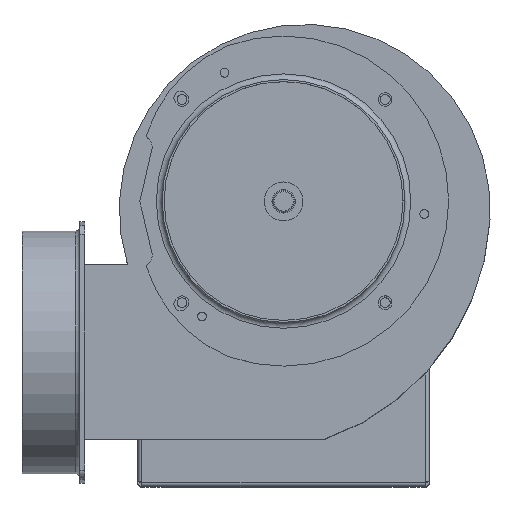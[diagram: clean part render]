
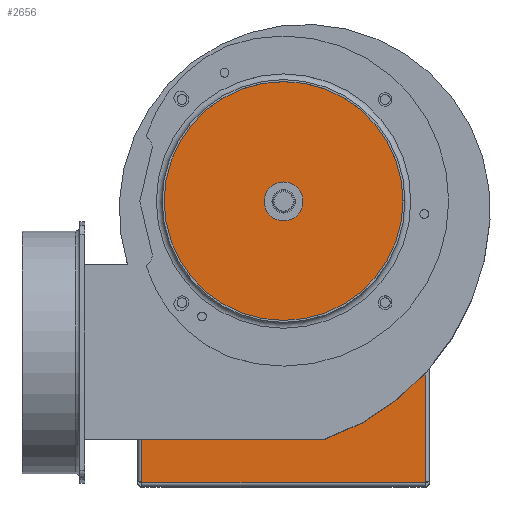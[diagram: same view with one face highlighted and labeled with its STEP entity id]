
A CAD part, top view. The second image highlights one B-rep face of the part: STEP entity #2656.
In plain terms, the highlighted planar face has unit normal (0, 0, 1) as drawn and (0, 0, -1) by its records, which use the part's own axes.
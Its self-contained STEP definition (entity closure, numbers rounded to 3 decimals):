
#80=PLANE('',#2942);
#152=LINE('',#4190,#332);
#159=LINE('',#4210,#339);
#165=LINE('',#4225,#345);
#173=LINE('',#4253,#353);
#178=LINE('',#4290,#358);
#179=LINE('',#4291,#359);
#180=LINE('',#4292,#360);
#332=VECTOR('',#3367,1000.);
#339=VECTOR('',#3380,1000.);
#345=VECTOR('',#3390,1000.);
#353=VECTOR('',#3418,1000.);
#358=VECTOR('',#3457,1000.);
#359=VECTOR('',#3458,1000.);
#360=VECTOR('',#3459,1000.);
#683=ORIENTED_EDGE('',*,*,#1323,.T.);
#684=ORIENTED_EDGE('',*,*,#1321,.T.);
#685=ORIENTED_EDGE('',*,*,#1319,.T.);
#686=ORIENTED_EDGE('',*,*,#1317,.T.);
#687=ORIENTED_EDGE('',*,*,#1315,.T.);
#688=ORIENTED_EDGE('',*,*,#1295,.F.);
#689=ORIENTED_EDGE('',*,*,#1325,.T.);
#690=ORIENTED_EDGE('',*,*,#1288,.F.);
#691=ORIENTED_EDGE('',*,*,#1326,.T.);
#692=ORIENTED_EDGE('',*,*,#1279,.F.);
#693=ORIENTED_EDGE('',*,*,#1327,.T.);
#694=ORIENTED_EDGE('',*,*,#1309,.F.);
#695=ORIENTED_EDGE('',*,*,#1307,.F.);
#696=ORIENTED_EDGE('',*,*,#1304,.F.);
#697=ORIENTED_EDGE('',*,*,#1301,.F.);
#1279=EDGE_CURVE('',#1624,#1625,#152,.T.);
#1288=EDGE_CURVE('',#1633,#1634,#159,.T.);
#1295=EDGE_CURVE('',#1640,#1641,#165,.T.);
#1301=EDGE_CURVE('',#1641,#1646,#1876,.T.);
#1304=EDGE_CURVE('',#1646,#1648,#1878,.T.);
#1307=EDGE_CURVE('',#1648,#1650,#1880,.T.);
#1309=EDGE_CURVE('',#1650,#1651,#173,.T.);
#1315=EDGE_CURVE('',#1656,#1656,#1882,.T.);
#1317=EDGE_CURVE('',#1658,#1658,#1884,.T.);
#1319=EDGE_CURVE('',#1660,#1660,#1886,.T.);
#1321=EDGE_CURVE('',#1662,#1662,#1888,.T.);
#1323=EDGE_CURVE('',#1664,#1664,#1890,.T.);
#1325=EDGE_CURVE('',#1640,#1634,#178,.F.);
#1326=EDGE_CURVE('',#1633,#1625,#179,.T.);
#1327=EDGE_CURVE('',#1624,#1651,#180,.F.);
#1624=VERTEX_POINT('',#4191);
#1625=VERTEX_POINT('',#4192);
#1633=VERTEX_POINT('',#4209);
#1634=VERTEX_POINT('',#4211);
#1640=VERTEX_POINT('',#4224);
#1641=VERTEX_POINT('',#4226);
#1646=VERTEX_POINT('',#4238);
#1648=VERTEX_POINT('',#4244);
#1650=VERTEX_POINT('',#4250);
#1651=VERTEX_POINT('',#4254);
#1656=VERTEX_POINT('',#4266);
#1658=VERTEX_POINT('',#4271);
#1660=VERTEX_POINT('',#4276);
#1662=VERTEX_POINT('',#4281);
#1664=VERTEX_POINT('',#4286);
#1876=CIRCLE('',#2918,71.521);
#1878=CIRCLE('',#2921,85.);
#1880=CIRCLE('',#2924,71.521);
#1882=CIRCLE('',#2928,3.25);
#1884=CIRCLE('',#2931,10.);
#1886=CIRCLE('',#2934,3.25);
#1888=CIRCLE('',#2937,3.25);
#1890=CIRCLE('',#2940,3.25);
#2087=EDGE_LOOP('',(#683));
#2088=EDGE_LOOP('',(#684));
#2089=EDGE_LOOP('',(#685));
#2090=EDGE_LOOP('',(#686));
#2091=EDGE_LOOP('',(#687));
#2092=EDGE_LOOP('',(#688,#689,#690,#691,#692,#693,#694,#695,#696,#697));
#2351=FACE_BOUND('',#2087,.T.);
#2352=FACE_BOUND('',#2088,.T.);
#2353=FACE_BOUND('',#2089,.T.);
#2354=FACE_BOUND('',#2090,.T.);
#2355=FACE_BOUND('',#2091,.T.);
#2356=FACE_BOUND('',#2092,.T.);
#2656=ADVANCED_FACE('',(#2351,#2352,#2353,#2354,#2355,#2356),#80,.F.);
#2918=AXIS2_PLACEMENT_3D('',#4237,#3399,#3400);
#2921=AXIS2_PLACEMENT_3D('',#4243,#3406,#3407);
#2924=AXIS2_PLACEMENT_3D('',#4249,#3413,#3414);
#2928=AXIS2_PLACEMENT_3D('',#4265,#3427,#3428);
#2931=AXIS2_PLACEMENT_3D('',#4270,#3433,#3434);
#2934=AXIS2_PLACEMENT_3D('',#4275,#3439,#3440);
#2937=AXIS2_PLACEMENT_3D('',#4280,#3445,#3446);
#2940=AXIS2_PLACEMENT_3D('',#4285,#3451,#3452);
#2942=AXIS2_PLACEMENT_3D('',#4289,#3455,#3456);
#3367=DIRECTION('',(0.,-1.,0.));
#3380=DIRECTION('',(0.,1.,0.));
#3390=DIRECTION('',(-1.,0.,0.));
#3399=DIRECTION('',(0.,0.,1.));
#3400=DIRECTION('',(1.,0.,0.));
#3406=DIRECTION('',(0.,0.,1.));
#3407=DIRECTION('',(1.,0.,0.));
#3413=DIRECTION('',(0.,0.,1.));
#3414=DIRECTION('',(1.,0.,0.));
#3418=DIRECTION('',(-1.,0.,0.));
#3427=DIRECTION('',(0.,0.,1.));
#3428=DIRECTION('',(1.,0.,0.));
#3433=DIRECTION('',(0.,0.,1.));
#3434=DIRECTION('',(1.,0.,0.));
#3439=DIRECTION('',(0.,0.,1.));
#3440=DIRECTION('',(1.,0.,0.));
#3445=DIRECTION('',(0.,0.,1.));
#3446=DIRECTION('',(1.,0.,0.));
#3451=DIRECTION('',(0.,0.,1.));
#3452=DIRECTION('',(1.,0.,0.));
#3455=DIRECTION('',(0.,0.,1.));
#3456=DIRECTION('',(1.,0.,0.));
#3457=DIRECTION('',(0.,1.,0.));
#3458=DIRECTION('',(-1.,0.,0.));
#3459=DIRECTION('',(0.,-1.,0.));
#4190=CARTESIAN_POINT('',(600.166,-957.763,-2.));
#4191=CARTESIAN_POINT('',(600.166,-968.763,-2.));
#4192=CARTESIAN_POINT('',(600.166,-969.613,-2.));
#4209=CARTESIAN_POINT('',(746.166,-969.613,-2.));
#4210=CARTESIAN_POINT('',(746.166,-958.613,-2.));
#4211=CARTESIAN_POINT('',(746.166,-968.763,-2.));
#4224=CARTESIAN_POINT('',(746.166,-807.613,-2.));
#4225=CARTESIAN_POINT('',(746.149,-807.613,-2.));
#4226=CARTESIAN_POINT('',(746.149,-807.613,-2.));
#4237=CARTESIAN_POINT('',(674.697,-810.759,-2.));
#4238=CARTESIAN_POINT('',(701.973,-744.644,-2.));
#4243=CARTESIAN_POINT('',(673.166,-824.613,-2.));
#4244=CARTESIAN_POINT('',(644.358,-744.644,-2.));
#4249=CARTESIAN_POINT('',(671.634,-810.759,-2.));
#4250=CARTESIAN_POINT('',(600.183,-807.613,-2.));
#4253=CARTESIAN_POINT('',(600.183,-807.613,-2.));
#4254=CARTESIAN_POINT('',(600.166,-807.613,-2.));
#4265=CARTESIAN_POINT('',(725.492,-772.287,-2.));
#4266=CARTESIAN_POINT('',(728.742,-772.287,-2.));
#4270=CARTESIAN_POINT('',(673.166,-824.613,-2.));
#4271=CARTESIAN_POINT('',(683.166,-824.613,-2.));
#4275=CARTESIAN_POINT('',(620.84,-772.287,-2.));
#4276=CARTESIAN_POINT('',(624.09,-772.287,-2.));
#4280=CARTESIAN_POINT('',(725.492,-876.939,-2.));
#4281=CARTESIAN_POINT('',(728.742,-876.939,-2.));
#4285=CARTESIAN_POINT('',(620.84,-876.939,-2.));
#4286=CARTESIAN_POINT('',(624.09,-876.939,-2.));
#4289=CARTESIAN_POINT('',(674.697,-810.759,-2.));
#4290=CARTESIAN_POINT('',(746.166,-968.763,-2.));
#4291=CARTESIAN_POINT('',(674.697,-969.613,-2.));
#4292=CARTESIAN_POINT('',(600.166,-807.613,-2.));
